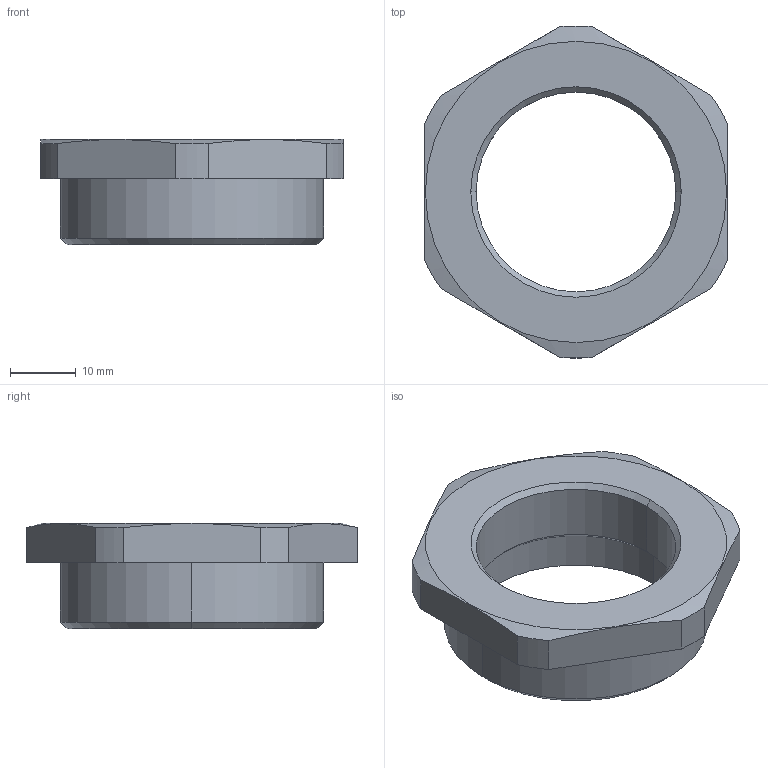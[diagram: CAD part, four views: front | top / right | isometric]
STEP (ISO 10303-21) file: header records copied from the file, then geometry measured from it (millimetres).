
FILE_DESCRIPTION (( 'STEP AP203' ), '1' );
FILE_NAME ('M40M32 PA.STEP', '2005-12-09T07:47:50', ( ' ' ), ( '' ), 'SwSTEP 2.0', 'SolidWorks 2005278', '' );
FILE_SCHEMA (( 'CONFIG_CONTROL_DESIGN' ));
Length unit declared in the file: millimetre
Products named in the file (1): M40M32 PA
Bounding box: 46 x 50.47 x 16 mm (x, y, z)
Volume: 10746.3 mm3; surface area: 5748.6 mm2
Topology: 1 solids, 1 shells, 67 faces, 174 edges, 114 vertices
Faces by surface type: plane 47, cylinder 12, cone 8
Entity records: 2149 total; most frequent: CARTESIAN_POINT 408, ORIENTED_EDGE 348, DIRECTION 334, EDGE_CURVE 174, VECTOR 134, LINE 134, VERTEX_POINT 114, AXIS2_PLACEMENT_3D 100
